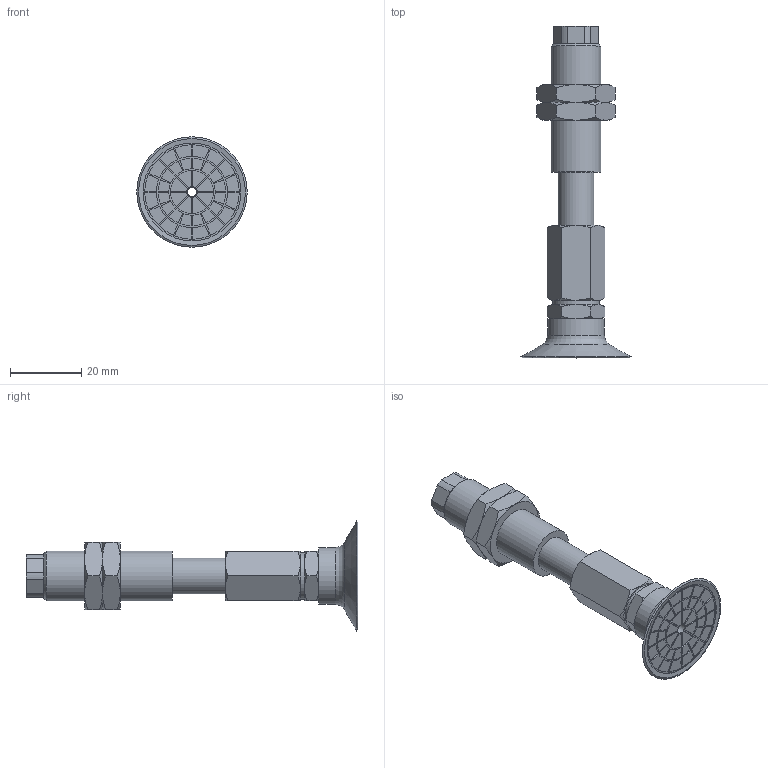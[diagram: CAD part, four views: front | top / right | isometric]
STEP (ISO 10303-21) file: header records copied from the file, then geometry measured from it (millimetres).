
FILE_DESCRIPTION(('STEP AP203'),'1');
FILE_NAME('.stp','2025-08-26T09:07:51',(' '),(' '),'Spatial InterOp 3D',' ',' ');
FILE_SCHEMA(('CONFIG_CONTROL_DESIGN'));
Length unit declared in the file: millimetre
Products named in the file (7): BNABPATS-30B-15-※; ADAPTER; NAPATS-30B-15--M; NAPATS-30B-15--F; Nut-25-S; TN-PA-30B-M6; BPAG-30B-※_3D
Assembly tree (7 placements, depth 2):
  BNABPATS-30B-15-※
    ADAPTER
    NAPATS-30B-15--M
    NAPATS-30B-15--F
    Nut-25-S  x2
    TN-PA-30B-M6
    BPAG-30B-※_3D
Bounding box: 31.04 x 93.2 x 31.04 mm (x, y, z)
Volume: 15979 mm3; surface area: 12080.6 mm2
Topology: 7 solids, 7 shells, 348 faces, 812 edges, 519 vertices
Faces by surface type: plane 185, cylinder 97, cone 60, torus 6
Full cylindrical faces by diameter (mm): 2.5 x1, 3 x3, 4.134 x1, 4.917 x1, 6 x3, 10 x4, 12.917 x2, 13 x1, 14 x1, 16 x1, 27.5 x1
Entity records: 9685 total; most frequent: CARTESIAN_POINT 1923, DIRECTION 1579, ORIENTED_EDGE 1444, EDGE_CURVE 722, AXIS2_PLACEMENT_3D 596, VERTEX_POINT 484, EDGE_LOOP 412, LINE 387
